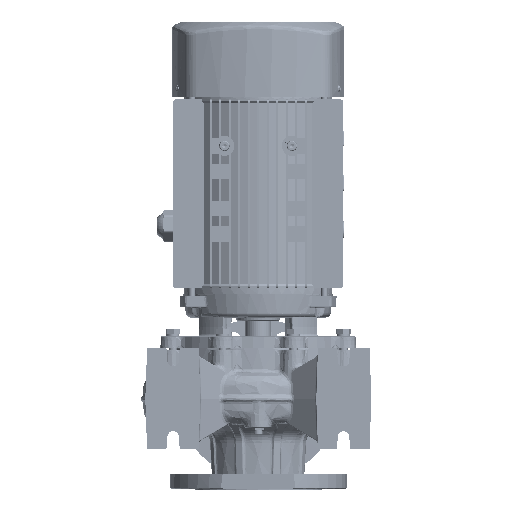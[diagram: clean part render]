
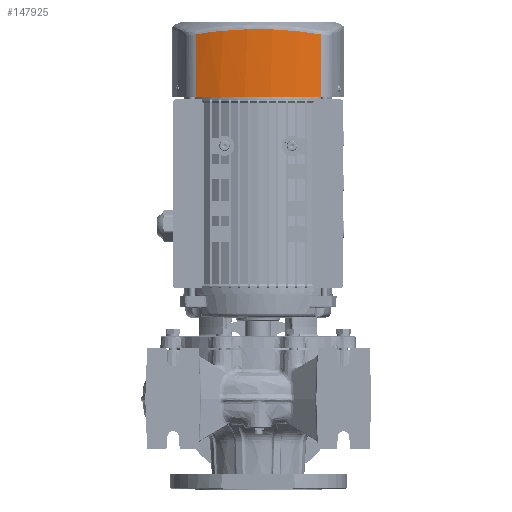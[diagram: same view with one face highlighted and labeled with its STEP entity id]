
A CAD part, front view. The second image highlights one B-rep face of the part: STEP entity #147925.
In plain terms, the highlighted cylindrical face has radius 199 mm (diameter 398 mm), a partial arc.
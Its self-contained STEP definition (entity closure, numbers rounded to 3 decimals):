
#3533 = DIRECTION ( 'NONE',  ( 0., 0., 1. ) ) ;
#11944 = EDGE_CURVE ( 'NONE', #237421, #27051, #42970, .T. ) ;
#16478 = CARTESIAN_POINT ( 'NONE',  ( -77.792, -91.559, 375.971 ) ) ;
#27051 = VERTEX_POINT ( 'NONE', #38952 ) ;
#27775 = DIRECTION ( 'NONE',  ( -1., 0., 0. ) ) ;
#28165 = CARTESIAN_POINT ( 'NONE',  ( 77.792, -91.559, 453.503 ) ) ;
#28872 = CARTESIAN_POINT ( 'NONE',  ( -71.656, -94.165, 375.971 ) ) ;
#34796 = CARTESIAN_POINT ( 'NONE',  ( 77.792, -91.559, 401.815 ) ) ;
#38952 = CARTESIAN_POINT ( 'NONE',  ( -77.792, -91.559, 453.503 ) ) ;
#40050 = VERTEX_POINT ( 'NONE', #213345 ) ;
#41168 = CARTESIAN_POINT ( 'NONE',  ( 5.892, -107.319, 460.022 ) ) ;
#42970 = B_SPLINE_CURVE_WITH_KNOTS ( 'NONE', 3,
 ( #16478, #149033, #84818, #235968 ),
 .UNSPECIFIED., .F., .F.,
 ( 4, 4 ),
 ( 0., 1. ),
 .UNSPECIFIED. ) ;
#53377 = CARTESIAN_POINT ( 'NONE',  ( 77.792, -91.559, 375.971 ) ) ;
#61133 = CARTESIAN_POINT ( 'NONE',  ( 77.792, -91.559, 453.503 ) ) ;
#62817 = EDGE_CURVE ( 'NONE', #40050, #237421, #75530, .T. ) ;
#63935 = CARTESIAN_POINT ( 'NONE',  ( -26.637, -106.053, 459.509 ) ) ;
#68804 = CARTESIAN_POINT ( 'NONE',  ( 26.579, -105.724, 375.971 ) ) ;
#71614 = CARTESIAN_POINT ( 'NONE',  ( 52.675, -100.412, 375.971 ) ) ;
#74381 = EDGE_CURVE ( 'NONE', #40050, #220906, #245518, .T. ) ;
#74693 = CYLINDRICAL_SURFACE ( 'NONE', #178796, 199. ) ;
#75530 = B_SPLINE_CURVE_WITH_KNOTS ( 'NONE', 3,
 ( #230428, #253211, #169097, #71614, #90180, #242728, #68804, #245531, #114372, #135795, #112971, #264157, #265562, #170502, #175762, #202768, #28872, #179982 ),
 .UNSPECIFIED., .F., .F.,
 ( 4, 2, 2, 2, 2, 2, 2, 2, 4 ),
 ( 0., 0.125, 0.25, 0.375, 0.5, 0.625, 0.75, 0.875, 1. ),
 .UNSPECIFIED. ) ;
#79559 = ORIENTED_EDGE ( 'NONE', *, *, #198449, .T. ) ;
#84818 = CARTESIAN_POINT ( 'NONE',  ( -77.792, -91.559, 427.659 ) ) ;
#85311 = CARTESIAN_POINT ( 'NONE',  ( 1.726, -107.388, 460.05 ) ) ;
#90180 = CARTESIAN_POINT ( 'NONE',  ( 46.225, -102.066, 375.971 ) ) ;
#112971 = CARTESIAN_POINT ( 'NONE',  ( -13.316, -107.06, 375.971 ) ) ;
#114372 = CARTESIAN_POINT ( 'NONE',  ( 6.665, -107.394, 375.971 ) ) ;
#129534 = CARTESIAN_POINT ( 'NONE',  ( 52.8, -100.723, 457.321 ) ) ;
#135795 = CARTESIAN_POINT ( 'NONE',  ( -6.665, -107.394, 375.971 ) ) ;
#136731 = EDGE_LOOP ( 'NONE', ( #243215, #243513, #165050, #79559 ) ) ;
#140343 = CARTESIAN_POINT ( 'NONE',  ( 77.792, -91.559, 427.659 ) ) ;
#147925 = ADVANCED_FACE ( 'NONE', ( #217426 ), #74693, .T. ) ;
#148123 = CARTESIAN_POINT ( 'NONE',  ( 65.562, -96.753, 455.685 ) ) ;
#149033 = CARTESIAN_POINT ( 'NONE',  ( -77.792, -91.559, 401.815 ) ) ;
#149522 = CARTESIAN_POINT ( 'NONE',  ( 8.39, -107.224, 459.983 ) ) ;
#156912 = CARTESIAN_POINT ( 'NONE',  ( -77.792, -91.559, 375.971 ) ) ;
#165050 = ORIENTED_EDGE ( 'NONE', *, *, #74381, .T. ) ;
#165917 = CARTESIAN_POINT ( 'NONE',  ( 77.792, -91.559, 453.503 ) ) ;
#169097 = CARTESIAN_POINT ( 'NONE',  ( 65.405, -96.457, 375.971 ) ) ;
#170502 = CARTESIAN_POINT ( 'NONE',  ( -46.225, -102.066, 375.971 ) ) ;
#172301 = CARTESIAN_POINT ( 'NONE',  ( 0.894, -107.394, 460.052 ) ) ;
#175762 = CARTESIAN_POINT ( 'NONE',  ( -52.675, -100.412, 375.971 ) ) ;
#177472 = CARTESIAN_POINT ( 'NONE',  ( 0., 91.606, 375.971 ) ) ;
#178796 = AXIS2_PLACEMENT_3D ( 'NONE', #177472, #3533, #27775 ) ;
#179982 = CARTESIAN_POINT ( 'NONE',  ( -77.792, -91.559, 375.971 ) ) ;
#192304 = CARTESIAN_POINT ( 'NONE',  ( 33.237, -104.712, 458.959 ) ) ;
#193711 = CARTESIAN_POINT ( 'NONE',  ( 3.393, -107.367, 460.042 ) ) ;
#195110 = CARTESIAN_POINT ( 'NONE',  ( -52.762, -100.735, 457.326 ) ) ;
#198449 = EDGE_CURVE ( 'NONE', #220906, #27051, #276020, .T. ) ;
#202768 = CARTESIAN_POINT ( 'NONE',  ( -65.405, -96.457, 375.971 ) ) ;
#213345 = CARTESIAN_POINT ( 'NONE',  ( 77.792, -91.559, 375.971 ) ) ;
#216486 = CARTESIAN_POINT ( 'NONE',  ( 13.382, -106.972, 459.881 ) ) ;
#217426 = FACE_OUTER_BOUND ( 'NONE', #136731, .T. ) ;
#220906 = VERTEX_POINT ( 'NONE', #28165 ) ;
#222130 = CARTESIAN_POINT ( 'NONE',  ( -65.544, -96.761, 455.688 ) ) ;
#230428 = CARTESIAN_POINT ( 'NONE',  ( 77.792, -91.559, 375.971 ) ) ;
#235968 = CARTESIAN_POINT ( 'NONE',  ( -77.792, -91.559, 453.503 ) ) ;
#237421 = VERTEX_POINT ( 'NONE', #156912 ) ;
#242728 = CARTESIAN_POINT ( 'NONE',  ( 33.162, -104.725, 375.971 ) ) ;
#243215 = ORIENTED_EDGE ( 'NONE', *, *, #11944, .F. ) ;
#243488 = CARTESIAN_POINT ( 'NONE',  ( -77.792, -91.559, 453.503 ) ) ;
#243513 = ORIENTED_EDGE ( 'NONE', *, *, #62817, .F. ) ;
#245518 = B_SPLINE_CURVE_WITH_KNOTS ( 'NONE', 3,
 ( #53377, #34796, #140343, #165917 ),
 .UNSPECIFIED., .F., .F.,
 ( 4, 4 ),
 ( 0., 1. ),
 .UNSPECIFIED. ) ;
#245531 = CARTESIAN_POINT ( 'NONE',  ( 13.316, -107.06, 375.971 ) ) ;
#253211 = CARTESIAN_POINT ( 'NONE',  ( 71.657, -94.165, 375.971 ) ) ;
#259273 = CARTESIAN_POINT ( 'NONE',  ( -13.295, -107.398, 460.054 ) ) ;
#264157 = CARTESIAN_POINT ( 'NONE',  ( -26.579, -105.724, 375.971 ) ) ;
#265562 = CARTESIAN_POINT ( 'NONE',  ( -33.162, -104.725, 375.971 ) ) ;
#276020 = B_SPLINE_CURVE_WITH_KNOTS ( 'NONE', 3,
 ( #61133, #148123, #129534, #192304, #280673, #279275, #216486, #149522, #41168, #193711, #85311, #172301, #259273, #63935, #195110, #222130, #243488 ),
 .UNSPECIFIED., .F., .F.,
 ( 4, 2, 2, 2, 1, 2, 2, 2, 4 ),
 ( 0., 0.25, 0.375, 0.438, 0.469, 0.484, 0.5, 0.75, 1. ),
 .UNSPECIFIED. ) ;
#279275 = CARTESIAN_POINT ( 'NONE',  ( 16.705, -106.72, 459.778 ) ) ;
#280673 = CARTESIAN_POINT ( 'NONE',  ( 26.646, -105.714, 459.368 ) ) ;
